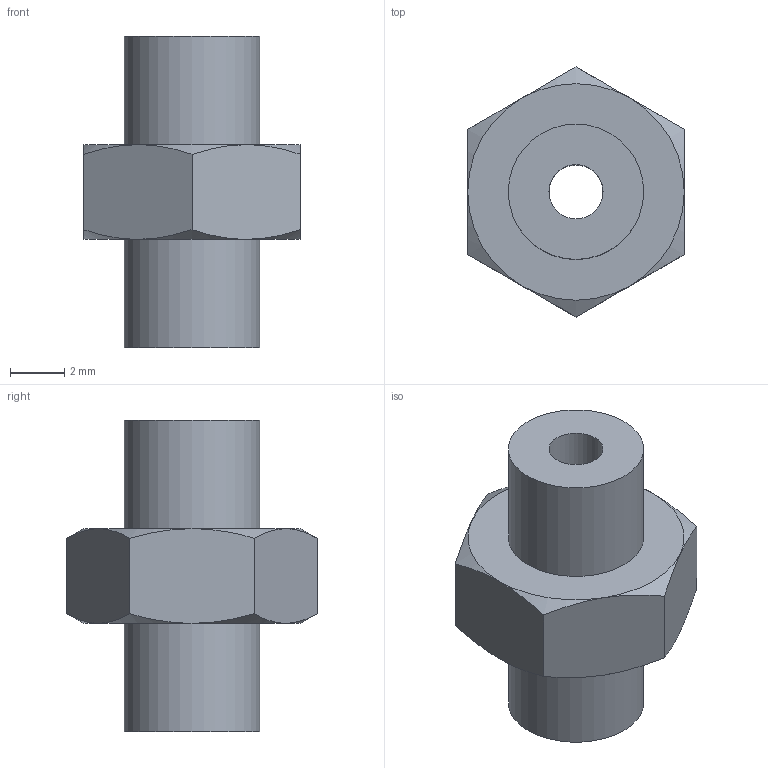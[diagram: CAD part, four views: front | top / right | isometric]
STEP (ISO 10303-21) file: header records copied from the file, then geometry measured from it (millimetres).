
FILE_DESCRIPTION(/* description */ (''),/* implementation_level */ '2;1');
FILE_NAME(/* name */ 'C:\PNX_VAULTFOLDER\Area Tecnica\Disegni\VARIE-3D\Componenti\raccordi\101####\101M5M5.stp',/* time_stamp */ '2019-09-13T10:22:36+02:00',/* author */ ('maniean1'),/* organization */ ('Pneumax S.p.A.'),/* preprocessor_version */ 'ST-DEVELOPER v17',/* originating_system */ 'Autodesk Inventor 2019',/* authorisation */ '');
FILE_SCHEMA (('AUTOMOTIVE_DESIGN { 1 0 10303 214 3 1 1 }'));
Length unit declared in the file: millimetre
Products named in the file (1): 101M5M5
Bounding box: 8 x 9.24 x 11.5 mm (x, y, z)
Volume: 313.8 mm3; surface area: 394.3 mm2
Topology: 1 solids, 1 shells, 25 faces, 56 edges, 35 vertices
Faces by surface type: cone 12, plane 10, cylinder 3
Full cylindrical faces by diameter (mm): 2 x1, 5 x2
Entity records: 741 total; most frequent: CARTESIAN_POINT 165, ORIENTED_EDGE 112, DIRECTION 107, EDGE_CURVE 56, AXIS2_PLACEMENT_3D 49, VERTEX_POINT 35, EDGE_LOOP 29, STYLED_ITEM 26
